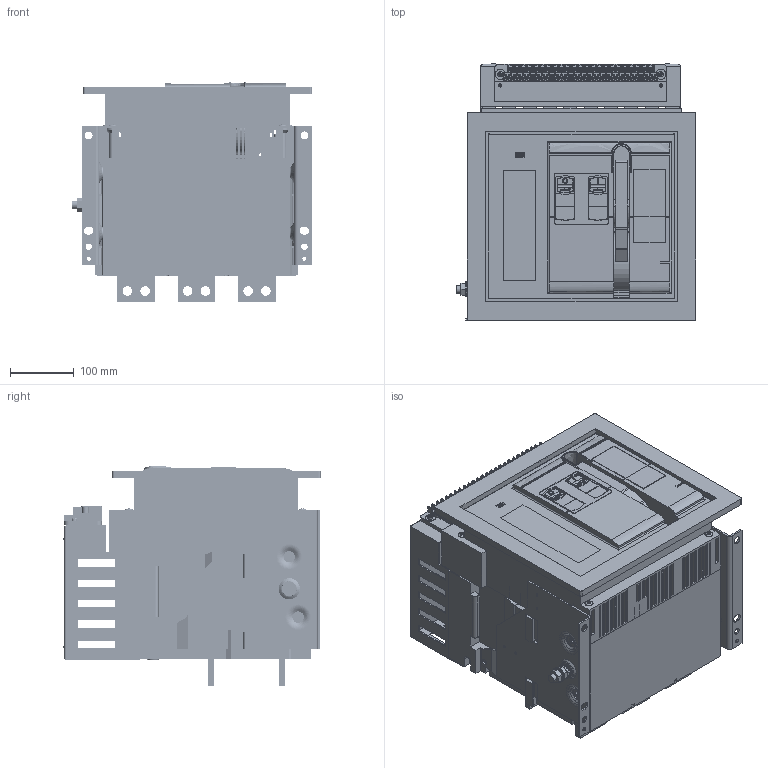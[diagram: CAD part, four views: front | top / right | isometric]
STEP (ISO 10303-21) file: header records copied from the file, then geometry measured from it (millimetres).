
FILE_DESCRIPTION (( 'STEP AP214' ), '1' );
FILE_NAME ('TENGEN_TGW1N-2000_3P_200A-630A__F.STEP', '2026-06-01T09:34:30', ( '' ), ( '' ), 'SwSTEP 2.0', 'SolidWorks 2024', '' );
FILE_SCHEMA (( 'AUTOMOTIVE_DESIGN' ));
Length unit declared in the file: millimetre
Products named in the file (31): 8TZD-253-1323_8_1_1_1.stP; 8TZD_253_1324_21_1_1_1.stP; MANIFOLD_SOLID_BREP_64659_12_1_.stP; 8TZD_282_1271_AF2_11_1_1_1.stP; 2000ZHAOKE_ASM_ASM_1_ASM_1_ASM__ASM.stP; 8TZD_282_1272_AF0_7_1_1_1.stP; 8TZD_005_1074_85_1_1_1.stP; MANIFOLD_SOLID_BREP_119_1_1_1_1.stP; 8TZD_321_1011_43_1_1_1.stP; MANIFOLD_SOLID_BREP_117_1_1_1_1.stP; TENGEN_TGW1N-2000_0001_ASM_1_AS_ASM.stP; 8TZD_860_1386_5_1_1_1.stP; MANIFOLD_SOLID_BREP_123_1_1_1_1.stP; TENGEN_TGW45-2000_0001_ASM_1_AS_ASM.stP; MANIFOLD_SOLID_BREP_121_1_1_1_1.stP; 2000A3P-GDSP_ASM_2_ASM_1_ASM_1__ASM.stP; TENGEN_TGW1N-2000_0001_ASM_1_ASM.stP; 8TZD_253_1322_28_1_1_1.stP; BOJ3B645A41J6D5_ASM_1_ASM_1_ASM_ASM.stP; 5TZD_005_1023_ASM_23_ASM_1_ASM__ASM.stP; MANIFOLD_SOLID_BREP_120_1_1_1_1.stP; TENGEN_TGW1N-2000_3P_200A-630A__F; 2000ZHAOKE_ASM_1_ASM_1_ASM_1_AS_ASM.stP; 8TZD_253_1325_22_1_1_1.stP; 8TZD_235_1114_34_1_1_1.stP; 8TZD_282_1271_AF1_11_1_1_1.stP; TENGEN_TGW1N-2000_3P_200A-630A__F.stP; 2000A3P-GDSP_ASM_1_ASM_1_ASM_1__ASM.stP; GB_T9074_4-M6X80_4_1_1_1.stP; MANIFOLD_SOLID_BREP_122_1_1_1_1.stP; TENGEN_Рамка_2000_Fixed
Assembly tree (33 placements, depth 9):
  TENGEN_TGW1N-2000_3P_200A-630A__F
    TENGEN_TGW1N-2000_3P_200A-630A__F.stP
      TENGEN_TGW1N-2000_0001_ASM_1_ASM.stP
        TENGEN_TGW1N-2000_0001_ASM_1_AS_ASM.stP
          TENGEN_TGW45-2000_0001_ASM_1_AS_ASM.stP
            2000A3P-GDSP_ASM_2_ASM_1_ASM_1__ASM.stP
              2000A3P-GDSP_ASM_1_ASM_1_ASM_1__ASM.stP
                BOJ3B645A41J6D5_ASM_1_ASM_1_ASM_ASM.stP
                  MANIFOLD_SOLID_BREP_117_1_1_1_1.stP
                  MANIFOLD_SOLID_BREP_119_1_1_1_1.stP
                  MANIFOLD_SOLID_BREP_120_1_1_1_1.stP
                  MANIFOLD_SOLID_BREP_121_1_1_1_1.stP
                  MANIFOLD_SOLID_BREP_122_1_1_1_1.stP
                  MANIFOLD_SOLID_BREP_123_1_1_1_1.stP
            2000ZHAOKE_ASM_ASM_1_ASM_1_ASM__ASM.stP
              2000ZHAOKE_ASM_1_ASM_1_ASM_1_AS_ASM.stP
                5TZD_005_1023_ASM_23_ASM_1_ASM__ASM.stP
                  8TZD_005_1074_85_1_1_1.stP
                  8TZD_253_1322_28_1_1_1.stP
                  8TZD_282_1272_AF0_7_1_1_1.stP
                  8TZD_235_1114_34_1_1_1.stP
                  8TZD_282_1271_AF1_11_1_1_1.stP
                  8TZD_282_1271_AF2_11_1_1_1.stP
                  8TZD_253_1325_22_1_1_1.stP
                  8TZD_253_1324_21_1_1_1.stP
                  8TZD_321_1011_43_1_1_1.stP
                  8TZD_860_1386_5_1_1_1.stP
                8TZD-253-1323_8_1_1_1.stP
                MANIFOLD_SOLID_BREP_64659_12_1_.stP
                GB_T9074_4-M6X80_4_1_1_1.stP  x4
    TENGEN_Рамка_2000_Fixed
Bounding box: 377.4 x 404.7 x 345.72 mm (x, y, z)
Volume: 17414697.6 mm3; surface area: 1982818.4 mm2
Topology: 20 solids, 28 shells, 5379 faces, 14661 edges, 9435 vertices
Faces by surface type: plane 3631, cylinder 1124, bspline 447, cone 84, torus 81, sphere 12
Entity records: 238998 total; most frequent: CARTESIAN_POINT 107641, ORIENTED_EDGE 28524, DIRECTION 25144, EDGE_CURVE 14264, VECTOR 9556, LINE 9556, VERTEX_POINT 9267, AXIS2_PLACEMENT_3D 7794
